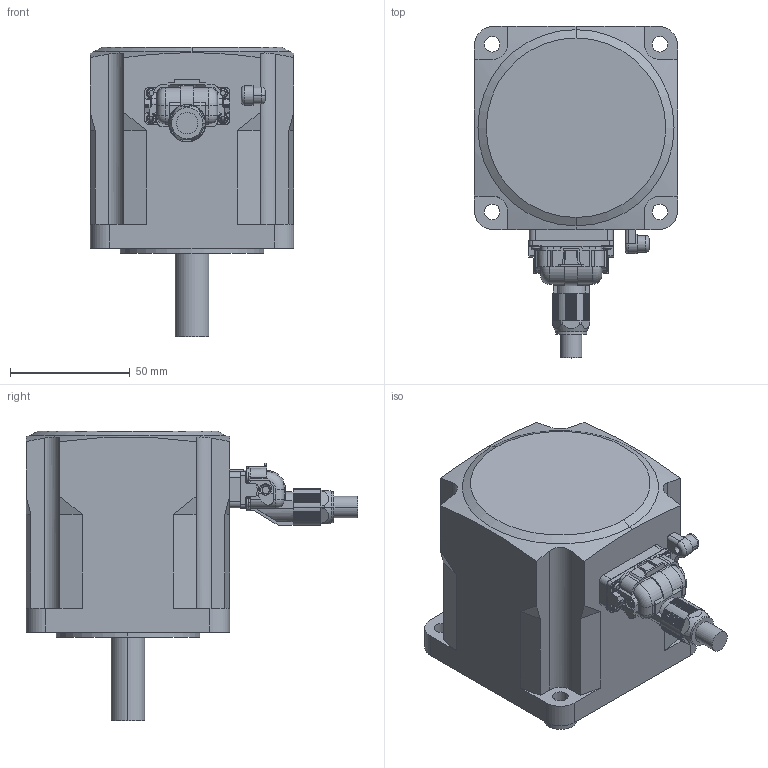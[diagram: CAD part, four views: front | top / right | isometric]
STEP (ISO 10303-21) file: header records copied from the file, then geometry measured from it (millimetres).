
FILE_DESCRIPTION (( 'STEP AP203' ), '1' );
FILE_NAME ('B1622_V.step', '2025-07-03T01:45:35', ( '' ), ( '' ), 'SwSTEP 2.0', 'SolidWorks 2023', '' );
FILE_SCHEMA (( 'CONFIG_CONTROL_DESIGN' ));
Length unit declared in the file: millimetre
Products named in the file (1): B1622_V
Bounding box: 85 x 138.6 x 121 mm (x, y, z)
Volume: 568786.4 mm3; surface area: 48235.9 mm2
Topology: 1 solids, 5 shells, 580 faces, 1603 edges, 1039 vertices
Faces by surface type: plane 335, cylinder 212, cone 16, torus 13, sphere 4
Entity records: 18718 total; most frequent: CARTESIAN_POINT 3487, DIRECTION 3237, ORIENTED_EDGE 3186, EDGE_CURVE 1593, AXIS2_PLACEMENT_3D 1097, LINE 1043, VECTOR 1043, VERTEX_POINT 1039
